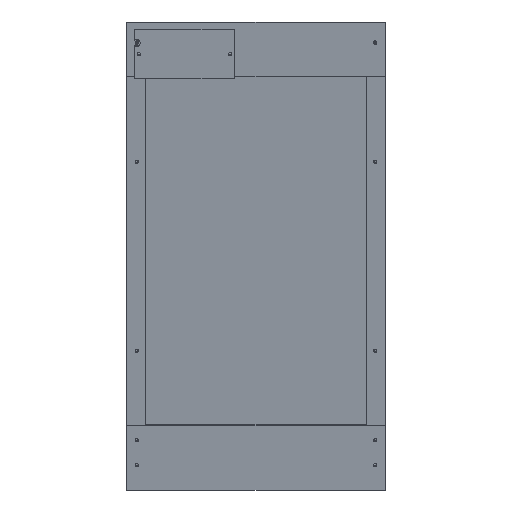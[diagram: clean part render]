
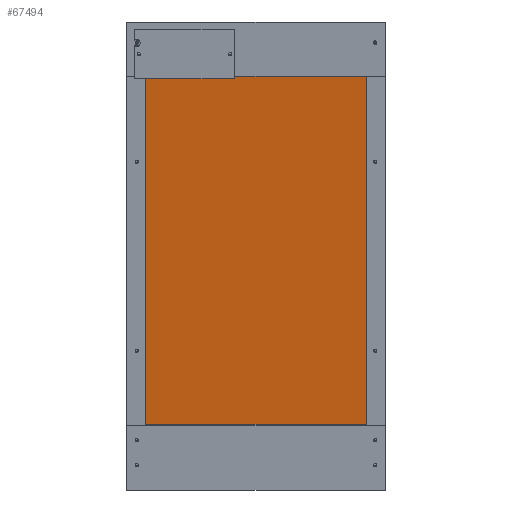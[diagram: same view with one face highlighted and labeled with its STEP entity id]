
A CAD part, top view. The second image highlights one B-rep face of the part: STEP entity #67494.
In plain terms, the highlighted planar face has unit normal (0, -0.174, 0.985).
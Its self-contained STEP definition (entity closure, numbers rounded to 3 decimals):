
#67325 = PLANE('',#67326);
#67326 = AXIS2_PLACEMENT_3D('',#67327,#67328,#67329);
#67327 = CARTESIAN_POINT('',(18.1,64.,86.285));
#67328 = DIRECTION('',(-0.,1.,0.));
#67329 = DIRECTION('',(0.,0.,-1.));
#67353 = PLANE('',#67354);
#67354 = AXIS2_PLACEMENT_3D('',#67355,#67356,#67357);
#67355 = CARTESIAN_POINT('',(241.9,240.675,111.437));
#67356 = DIRECTION('',(1.,0.,0.));
#67357 = DIRECTION('',(-0.,0.,1.));
#67381 = PLANE('',#67382);
#67382 = AXIS2_PLACEMENT_3D('',#67383,#67384,#67385);
#67383 = CARTESIAN_POINT('',(18.1,417.349,136.59));
#67384 = DIRECTION('',(0.,-1.,0.));
#67385 = DIRECTION('',(0.,0.,1.));
#67407 = PLANE('',#67408);
#67408 = AXIS2_PLACEMENT_3D('',#67409,#67410,#67411);
#67409 = CARTESIAN_POINT('',(18.1,240.675,111.437));
#67410 = DIRECTION('',(1.,0.,0.));
#67411 = DIRECTION('',(-0.,0.,1.));
#67424 = VERTEX_POINT('',#67425);
#67425 = CARTESIAN_POINT('',(241.9,417.349,148.59));
#67446 = EDGE_CURVE('',#67447,#67424,#67449,.T.);
#67447 = VERTEX_POINT('',#67448);
#67448 = CARTESIAN_POINT('',(18.1,417.349,148.59));
#67449 = SURFACE_CURVE('',#67450,(#67454,#67461),.PCURVE_S1.);
#67450 = LINE('',#67451,#67452);
#67451 = CARTESIAN_POINT('',(18.1,417.349,148.59));
#67452 = VECTOR('',#67453,1.);
#67453 = DIRECTION('',(1.,0.,0.));
#67454 = PCURVE('',#67381,#67455);
#67455 = DEFINITIONAL_REPRESENTATION('',(#67456),#67460);
#67456 = LINE('',#67457,#67458);
#67457 = CARTESIAN_POINT('',(12.,0.));
#67458 = VECTOR('',#67459,1.);
#67459 = DIRECTION('',(0.,-1.));
#67460 = ( GEOMETRIC_REPRESENTATION_CONTEXT(2) 
PARAMETRIC_REPRESENTATION_CONTEXT() REPRESENTATION_CONTEXT('2D SPACE',''
  ) );
#67461 = PCURVE('',#67462,#67467);
#67462 = PLANE('',#67463);
#67463 = AXIS2_PLACEMENT_3D('',#67464,#67465,#67466);
#67464 = CARTESIAN_POINT('',(18.1,417.349,148.59));
#67465 = DIRECTION('',(0.,0.174,-0.985));
#67466 = DIRECTION('',(0.,-0.985,-0.174));
#67467 = DEFINITIONAL_REPRESENTATION('',(#67468),#67472);
#67468 = LINE('',#67469,#67470);
#67469 = CARTESIAN_POINT('',(0.,0.));
#67470 = VECTOR('',#67471,1.);
#67471 = DIRECTION('',(0.,-1.));
#67472 = ( GEOMETRIC_REPRESENTATION_CONTEXT(2) 
PARAMETRIC_REPRESENTATION_CONTEXT() REPRESENTATION_CONTEXT('2D SPACE',''
  ) );
#67494 = ADVANCED_FACE('',(#67495),#67462,.F.);
#67495 = FACE_BOUND('',#67496,.F.);
#67496 = EDGE_LOOP('',(#67497,#67498,#67521,#67544));
#67497 = ORIENTED_EDGE('',*,*,#67446,.T.);
#67498 = ORIENTED_EDGE('',*,*,#67499,.T.);
#67499 = EDGE_CURVE('',#67424,#67500,#67502,.T.);
#67500 = VERTEX_POINT('',#67501);
#67501 = CARTESIAN_POINT('',(241.9,64.,86.285));
#67502 = SURFACE_CURVE('',#67503,(#67507,#67514),.PCURVE_S1.);
#67503 = LINE('',#67504,#67505);
#67504 = CARTESIAN_POINT('',(241.9,417.349,148.59));
#67505 = VECTOR('',#67506,1.);
#67506 = DIRECTION('',(0.,-0.985,-0.174));
#67507 = PCURVE('',#67462,#67508);
#67508 = DEFINITIONAL_REPRESENTATION('',(#67509),#67513);
#67509 = LINE('',#67510,#67511);
#67510 = CARTESIAN_POINT('',(0.,-223.8));
#67511 = VECTOR('',#67512,1.);
#67512 = DIRECTION('',(1.,0.));
#67513 = ( GEOMETRIC_REPRESENTATION_CONTEXT(2) 
PARAMETRIC_REPRESENTATION_CONTEXT() REPRESENTATION_CONTEXT('2D SPACE',''
  ) );
#67514 = PCURVE('',#67353,#67515);
#67515 = DEFINITIONAL_REPRESENTATION('',(#67516),#67520);
#67516 = LINE('',#67517,#67518);
#67517 = CARTESIAN_POINT('',(37.152,-176.675));
#67518 = VECTOR('',#67519,1.);
#67519 = DIRECTION('',(-0.174,0.985));
#67520 = ( GEOMETRIC_REPRESENTATION_CONTEXT(2) 
PARAMETRIC_REPRESENTATION_CONTEXT() REPRESENTATION_CONTEXT('2D SPACE',''
  ) );
#67521 = ORIENTED_EDGE('',*,*,#67522,.F.);
#67522 = EDGE_CURVE('',#67523,#67500,#67525,.T.);
#67523 = VERTEX_POINT('',#67524);
#67524 = CARTESIAN_POINT('',(18.1,64.,86.285));
#67525 = SURFACE_CURVE('',#67526,(#67530,#67537),.PCURVE_S1.);
#67526 = LINE('',#67527,#67528);
#67527 = CARTESIAN_POINT('',(18.1,64.,86.285));
#67528 = VECTOR('',#67529,1.);
#67529 = DIRECTION('',(1.,0.,0.));
#67530 = PCURVE('',#67462,#67531);
#67531 = DEFINITIONAL_REPRESENTATION('',(#67532),#67536);
#67532 = LINE('',#67533,#67534);
#67533 = CARTESIAN_POINT('',(358.8,0.));
#67534 = VECTOR('',#67535,1.);
#67535 = DIRECTION('',(0.,-1.));
#67536 = ( GEOMETRIC_REPRESENTATION_CONTEXT(2) 
PARAMETRIC_REPRESENTATION_CONTEXT() REPRESENTATION_CONTEXT('2D SPACE',''
  ) );
#67537 = PCURVE('',#67325,#67538);
#67538 = DEFINITIONAL_REPRESENTATION('',(#67539),#67543);
#67539 = LINE('',#67540,#67541);
#67540 = CARTESIAN_POINT('',(0.,0.));
#67541 = VECTOR('',#67542,1.);
#67542 = DIRECTION('',(0.,-1.));
#67543 = ( GEOMETRIC_REPRESENTATION_CONTEXT(2) 
PARAMETRIC_REPRESENTATION_CONTEXT() REPRESENTATION_CONTEXT('2D SPACE',''
  ) );
#67544 = ORIENTED_EDGE('',*,*,#67545,.F.);
#67545 = EDGE_CURVE('',#67447,#67523,#67546,.T.);
#67546 = SURFACE_CURVE('',#67547,(#67551,#67558),.PCURVE_S1.);
#67547 = LINE('',#67548,#67549);
#67548 = CARTESIAN_POINT('',(18.1,417.349,148.59));
#67549 = VECTOR('',#67550,1.);
#67550 = DIRECTION('',(0.,-0.985,-0.174));
#67551 = PCURVE('',#67462,#67552);
#67552 = DEFINITIONAL_REPRESENTATION('',(#67553),#67557);
#67553 = LINE('',#67554,#67555);
#67554 = CARTESIAN_POINT('',(0.,0.));
#67555 = VECTOR('',#67556,1.);
#67556 = DIRECTION('',(1.,0.));
#67557 = ( GEOMETRIC_REPRESENTATION_CONTEXT(2) 
PARAMETRIC_REPRESENTATION_CONTEXT() REPRESENTATION_CONTEXT('2D SPACE',''
  ) );
#67558 = PCURVE('',#67407,#67559);
#67559 = DEFINITIONAL_REPRESENTATION('',(#67560),#67564);
#67560 = LINE('',#67561,#67562);
#67561 = CARTESIAN_POINT('',(37.152,-176.675));
#67562 = VECTOR('',#67563,1.);
#67563 = DIRECTION('',(-0.174,0.985));
#67564 = ( GEOMETRIC_REPRESENTATION_CONTEXT(2) 
PARAMETRIC_REPRESENTATION_CONTEXT() REPRESENTATION_CONTEXT('2D SPACE',''
  ) );
